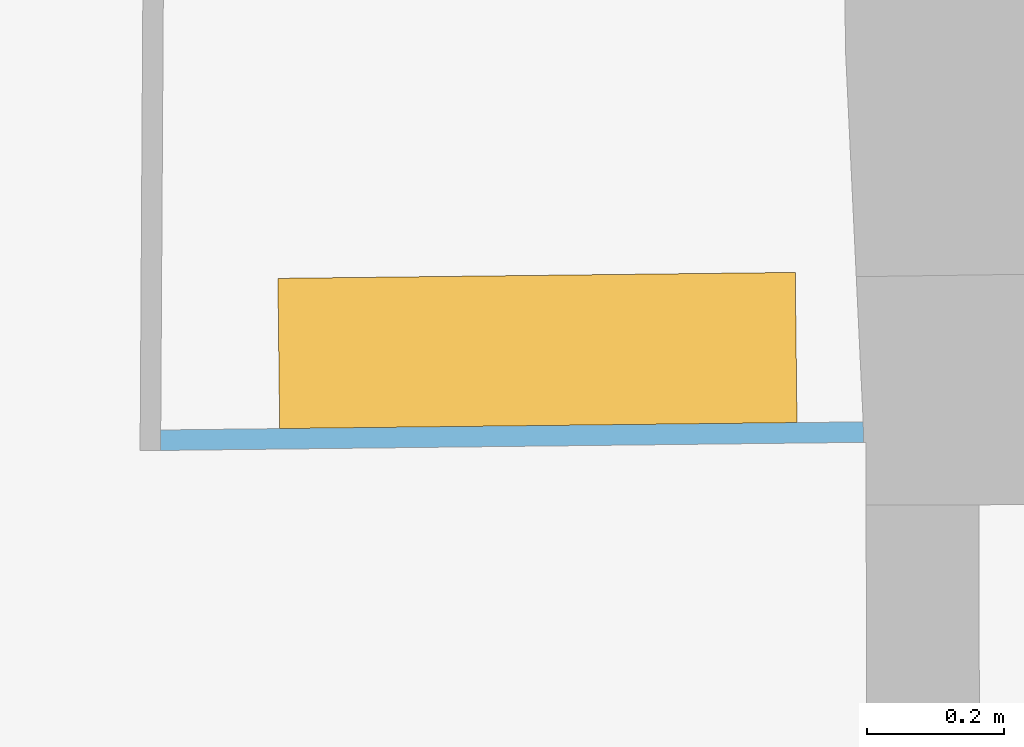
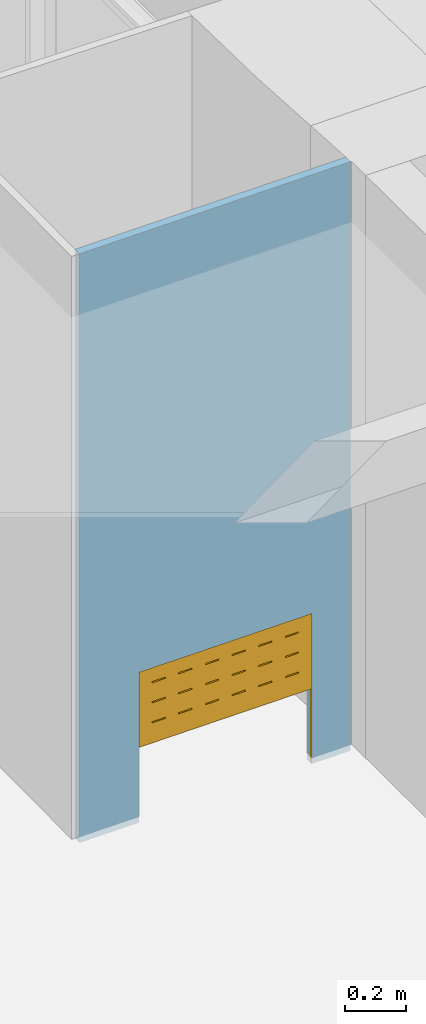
# One storey, part 50 of 72: 1 door, 1 opening, plus 1 element that does not belong to this part.
"""IFC2X3 building model written with IfcOpenShell, lengths in centimetres."""

import ifcopenshell
import ifcopenshell.guid

model = None  # the IFC model being written
_history = None  # IfcOwnerHistory: only IFC2X3 demands one
_inside = {}  # id of a spatial element -> (the spatial element, [elements in it])
_under = {}  # id of a project, library or spatial element -> (it, [spatial elements below it])
_declared = {}  # id of a project -> (the project, [libraries it declares])
_typed = {}  # id of a type object -> (the type object, [elements of that type])
_made_of = {}  # id of a material, layer set ... -> (it, [elements and type objects made of it])


def new_model(schema):
    """Start an empty IFC model of exactly this schema.

    Asked for "IFC4X3", IfcOpenShell would pick the latest addendum, in which some entities
    have other attributes; the version numbers below select the first issue.
    IFC2X3 requires an IfcOwnerHistory on every rooted entity: one is made here for all.
    """
    global model, _history
    if schema == "IFC4X3":
        model = ifcopenshell.file(schema_version=(4, 3, 0, 0))
    else:
        model = ifcopenshell.file(schema=schema)
    _inside.clear()
    _under.clear()
    _declared.clear()
    _typed.clear()
    _made_of.clear()
    _history = None
    if model.schema == "IFC2X3":
        org = make("IfcOrganization", Name="unknown")
        user = make(
            "IfcPersonAndOrganization",
            ThePerson=make("IfcPerson", FamilyName="unknown"),
            TheOrganization=org,
        )
        app = make(
            "IfcApplication",
            ApplicationDeveloper=org,
            Version="unknown",
            ApplicationFullName="unknown",
            ApplicationIdentifier="unknown",
        )
        _history = make(
            "IfcOwnerHistory",
            OwningUser=user,
            OwningApplication=app,
            ChangeAction="ADDED",
            CreationDate=0,
        )
    return model


def make(cls, **values):
    """One entity of the class cls with the attributes given. An attribute that is None is left unset."""
    return model.create_entity(
        cls, **{name: value for name, value in values.items() if value is not None}
    )


def entity(cls, *values):
    """Any entity or typed value of the class cls, its attributes in the order of the schema. None: left unset."""
    e = model.create_entity(cls)
    for i, value in enumerate(values):
        if value is not None:
            e[i] = value
    return e


def rooted(cls, **values):
    """An entity with a GlobalId (a new one), such as an element, a storey or a relation."""
    return make(cls, GlobalId=ifcopenshell.guid.new(), OwnerHistory=_history, **values)


def si_unit(unit_type, name, prefix=None):
    """IfcSIUnit, for example si_unit("LENGTHUNIT", "METRE", prefix="MILLI")."""
    return make("IfcSIUnit", UnitType=unit_type, Prefix=prefix, Name=name)


def converted_unit(unit_type, name, factor, base, dimensions=None, offset=None):
    """IfcConversionBasedUnit, such as the inch: factor (a typed value) times the base unit."""
    return make(
        "IfcConversionBasedUnit"
        if offset is None
        else "IfcConversionBasedUnitWithOffset",
        ConversionOffset=offset,
        Dimensions=None
        if dimensions is None
        else entity("IfcDimensionalExponents", *dimensions),
        UnitType=unit_type,
        Name=name,
        ConversionFactor=make(
            "IfcMeasureWithUnit", ValueComponent=factor, UnitComponent=base
        ),
    )


def assignment(units):
    """IfcUnitAssignment: the units of a project."""
    return None if units is None else make("IfcUnitAssignment", Units=units)


def point(xyz):
    """IfcCartesianPoint."""
    return None if xyz is None else make("IfcCartesianPoint", Coordinates=xyz)


def direction(xyz):
    """IfcDirection."""
    return None if xyz is None else make("IfcDirection", DirectionRatios=xyz)


def frame(location, z_axis=None, x_axis=None):
    """IfcAxis2Placement3D, a coordinate frame: its origin and axes. An axis left out is left unset."""
    return make(
        "IfcAxis2Placement3D",
        Location=point(location),
        Axis=direction(z_axis),
        RefDirection=direction(x_axis),
    )


def origin():
    """The frame at (0, 0, 0) with its axes left unset."""
    return frame((0.0, 0.0, 0.0))


def origin_with_axes():
    """The frame at (0, 0, 0) with the z axis (0, 0, 1) and the x axis (1, 0, 0) written out."""
    return frame((0.0, 0.0, 0.0), z_axis=(0.0, 0.0, 1.0), x_axis=(1.0, 0.0, 0.0))


def place(relative_to, where):
    """IfcLocalPlacement: puts the frame where relative to a parent placement (None: the world)."""
    return make(
        "IfcLocalPlacement", PlacementRelTo=relative_to, RelativePlacement=where
    )


def context(
    kind, dimensions, precision=None, world=None, true_north=None, identifier=None
):
    """IfcGeometricRepresentationContext, for example the 3D "Model" context."""
    return make(
        "IfcGeometricRepresentationContext",
        ContextIdentifier=identifier,
        ContextType=kind,
        CoordinateSpaceDimension=dimensions,
        Precision=precision,
        WorldCoordinateSystem=world,
        TrueNorth=true_north,
    )


def subcontext(parent, identifier, kind, view, scale=None):
    """IfcGeometricRepresentationSubContext, for example "Body" below "Model"."""
    return make(
        "IfcGeometricRepresentationSubContext",
        ContextIdentifier=identifier,
        ContextType=kind,
        ParentContext=parent,
        TargetScale=scale,
        TargetView=view,
    )


def project(units=None, contexts=None):
    """IfcProject with its units and contexts."""
    return rooted(
        "IfcProject",
        Name="project",
        RepresentationContexts=contexts,
        UnitsInContext=assignment(units),
    )


def spatial(cls, under=None, at=None, **own):
    """A site, building, storey or space (cls), placed at a placement, below another one or the project."""
    s = rooted(cls, ObjectPlacement=at, **own)
    if under is not None:
        _under.setdefault(under.id(), (under, []))[1].append(s)
    return s


def polyline(points):
    """IfcPolyline through the points."""
    return make("IfcPolyline", Points=[point(p) for p in points])


def outline(outer, holes=None, kind="AREA"):
    """IfcArbitraryClosedProfileDef: a profile drawn as a closed curve; with holes, ...WithVoids."""
    if holes is None:
        return make("IfcArbitraryClosedProfileDef", ProfileType=kind, OuterCurve=outer)
    return make(
        "IfcArbitraryProfileDefWithVoids",
        ProfileType=kind,
        OuterCurve=outer,
        InnerCurves=holes,
    )


def extrude(swept, where, along, depth):
    """IfcExtrudedAreaSolid: the profile swept, set in the frame where, extruded along a direction by depth."""
    return make(
        "IfcExtrudedAreaSolid",
        SweptArea=swept,
        Position=where,
        ExtrudedDirection=direction(along),
        Depth=depth,
    )


def faces_of(points, faces, orient=None, outer=None):
    """IfcFace entities. A face is a list of loops; a loop is a list of indices into points, from 0.

    orient and outer hold one flag for each loop. By default every Orientation is true, the
    first loop of a face is its IfcFaceOuterBound and the others are IfcFaceBound.
    """
    made = []
    for i, loops in enumerate(faces):
        bounds = []
        for j, loop in enumerate(loops):
            is_outer = j == 0 if outer is None else outer[i][j]
            bounds.append(
                make(
                    "IfcFaceOuterBound" if is_outer else "IfcFaceBound",
                    Bound=make("IfcPolyLoop", Polygon=[points[k] for k in loop]),
                    Orientation=True if orient is None else orient[i][j],
                )
            )
        made.append(make("IfcFace", Bounds=bounds))
    return made


def faceted_brep(points, faces, orient=None, outer=None, voids=None):
    """IfcFacetedBrep: a solid bounded by flat faces; with voids (closed shells), ...WithVoids."""
    shared = [point(p) for p in points]
    hull = make("IfcClosedShell", CfsFaces=faces_of(shared, faces, orient, outer))
    if voids is None:
        return make("IfcFacetedBrep", Outer=hull)
    return make(
        "IfcFacetedBrepWithVoids",
        Outer=hull,
        Voids=[
            make(cls, CfsFaces=faces_of(shared, fs, o, b)) for cls, fs, o, b in voids
        ],
    )


def shape(context_of_items, identifier, shape_type, items):
    """IfcShapeRepresentation: the items that make up one representation, for example the "Body"."""
    return make(
        "IfcShapeRepresentation",
        ContextOfItems=context_of_items,
        RepresentationIdentifier=identifier,
        RepresentationType=shape_type,
        Items=items,
    )


def source(mapping_origin, context_of_items, identifier, shape_type, items):
    """IfcRepresentationMap: a shape defined once, which mapped items show again and again."""
    return make(
        "IfcRepresentationMap",
        MappingOrigin=mapping_origin,
        MappedRepresentation=shape(context_of_items, identifier, shape_type, items),
    )


def transform(
    local_origin,
    x_axis=None,
    y_axis=None,
    z_axis=None,
    scale=None,
    scale2=None,
    scale3=None,
    uniform=True,
):
    """IfcCartesianTransformationOperator3D, or its non-uniform kind. x_axis, y_axis, z_axis: its Axis1, 2, 3."""
    if uniform:
        return make(
            "IfcCartesianTransformationOperator3D",
            Axis1=direction(x_axis),
            Axis2=direction(y_axis),
            LocalOrigin=point(local_origin),
            Scale=scale,
            Axis3=direction(z_axis),
        )
    return make(
        "IfcCartesianTransformationOperator3DnonUniform",
        Axis1=direction(x_axis),
        Axis2=direction(y_axis),
        LocalOrigin=point(local_origin),
        Scale=scale,
        Axis3=direction(z_axis),
        Scale2=scale2,
        Scale3=scale3,
    )


def mapped(mapping_source, mapping_target):
    """IfcMappedItem: shows the shape of a source again, moved by a transform."""
    return make(
        "IfcMappedItem", MappingSource=mapping_source, MappingTarget=mapping_target
    )


def material(Name=None, Category=None):
    """IfcMaterial."""
    return make("IfcMaterial", Name=Name, Category=Category)


def layer(
    of_material, thickness, ventilated=None, Name=None, Category=None, Priority=None
):
    """IfcMaterialLayer: one layer of a wall or slab, of a material (None: an air gap)."""
    return make(
        "IfcMaterialLayer",
        Material=of_material,
        LayerThickness=thickness,
        IsVentilated=ventilated,
        Name=Name,
        Category=Category,
        Priority=Priority,
    )


def layer_set(layers, Name=None):
    """IfcMaterialLayerSet."""
    return make("IfcMaterialLayerSet", MaterialLayers=layers, LayerSetName=Name)


def layer_usage(for_layer_set, set_direction, sense, offset, extent=None):
    """IfcMaterialLayerSetUsage: how a layer set lies in its element."""
    return make(
        "IfcMaterialLayerSetUsage",
        ForLayerSet=for_layer_set,
        LayerSetDirection=set_direction,
        DirectionSense=sense,
        OffsetFromReferenceLine=offset,
        ReferenceExtent=extent,
    )


def made_of(thing, what):
    """Note that an element or type object is made of a material, layer set ...; save() writes the relation."""
    if what is not None:
        _made_of.setdefault(what.id(), (what, []))[1].append(thing)
    return thing


def type_object(cls, material=None, **own):
    """A type object (cls), such as IfcWallType, which elements share."""
    return made_of(rooted(cls, **own), material)


def element(
    cls,
    number,
    at=None,
    inside=None,
    cuts=None,
    type_object=None,
    material=None,
    context=None,
    identifier="Body",
    shape_type=None,
    held_by="IfcProductDefinitionShape",
    body=None,
    shapes=None,
    **own,
):
    """One element of the class cls, such as IfcWall. Its Tag is "e" and its number.

    at: its placement. inside: the storey or other place that contains it. cuts: it is an
    opening in that element (IfcRelVoidsElement). A single representation is given by context,
    identifier, shape_type and body (its items); several are given by shapes. held_by: the class
    of the entity that holds the representations. save() writes the other relations.
    """
    e = rooted(cls, Tag="e%d" % number, ObjectPlacement=at, **own)
    if body is not None:
        shapes = [shape(context, identifier, shape_type, body)]
    if shapes is not None:
        e.Representation = make(held_by, Representations=shapes)
    if inside is not None:
        _inside.setdefault(inside.id(), (inside, []))[1].append(e)
    if cuts is not None:
        rooted(
            "IfcRelVoidsElement", RelatingBuildingElement=cuts, RelatedOpeningElement=e
        )
    if type_object is not None:
        _typed.setdefault(type_object.id(), (type_object, []))[1].append(e)
    return made_of(e, material)


def fill(opening, filler):
    """IfcRelFillsElement: the door or window that sits in an opening."""
    return rooted(
        "IfcRelFillsElement",
        RelatingOpeningElement=opening,
        RelatedBuildingElement=filler,
    )


def aggregate(whole, parts):
    """IfcRelAggregates: a whole, such as a stair, and the parts it consists of."""
    return rooted("IfcRelAggregates", RelatingObject=whole, RelatedObjects=parts)


def save(model, path):
    """Write the relations noted so far, then the file.

    IfcRelAggregates (storeys below a building ...), IfcRelContainedInSpatialStructure (elements
    in a storey), IfcRelDefinesByType, IfcRelAssociatesMaterial and IfcRelDeclares: one each for
    every whole, place, type object, material and project.
    """
    for whole, parts in _under.values():
        aggregate(whole, parts)
    for where, things in _inside.values():
        rooted(
            "IfcRelContainedInSpatialStructure",
            RelatedElements=things,
            RelatingStructure=where,
        )
    for kind, things in _typed.values():
        rooted("IfcRelDefinesByType", RelatedObjects=things, RelatingType=kind)
    for what, things in _made_of.values():
        rooted("IfcRelAssociatesMaterial", RelatedObjects=things, RelatingMaterial=what)
    for by, libraries in _declared.values():
        rooted("IfcRelDeclares", RelatingContext=by, RelatedDefinitions=libraries)
    model.write(path)


model = new_model("IFC2X3")

# Units and contexts
model_context = context("Model", 3, precision=0.0001, world=origin(), true_north=direction((0.225632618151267, 0.974212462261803, 0.0)))
body_context = subcontext(model_context, "Body", "Model", "MODEL_VIEW")
footprint_context = subcontext(model_context, "FootPrint", "Model", "MODEL_VIEW")
profile_context = subcontext(model_context, "Profile", "Model", "MODEL_VIEW")
ifc_project = project(units=[si_unit("LENGTHUNIT", "METRE", prefix="CENTI"), si_unit("AREAUNIT", "SQUARE_METRE", prefix="CENTI"), si_unit("VOLUMEUNIT", "CUBIC_METRE", prefix="CENTI"), converted_unit("PLANEANGLEUNIT", "DEGREE", entity("IfcRatioMeasure", 0.0174532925), si_unit("PLANEANGLEUNIT", "RADIAN"), dimensions=[0, 0, 0, 0, 0, 0, 0])], contexts=[model_context])

# Site, building, storey
site_placement = place(None, origin_with_axes())
site = spatial("IfcSite", under=ifc_project, at=site_placement, Name="Default Site", CompositionType="ELEMENT")
building_placement = place(site_placement, origin_with_axes())
building = spatial("IfcBuilding", under=site, at=building_placement, Name="Default Building", CompositionType="ELEMENT")
storey_placement = place(building_placement, frame((0.0, 0.0, 853.910374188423), z_axis=(0.0, 0.0, 1.0), x_axis=(1.0, 0.0, 0.0)))
storey = spatial("IfcBuildingStorey", under=building, at=storey_placement, Name="Niveau 2", CompositionType="ELEMENT", Elevation=853.910374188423)

# Wall, opening, door
ifc_material_1 = material(Name="<aucun>")
ifc_layer = layer(ifc_material_1, 3.0)
ifc_layer_set = layer_set([ifc_layer], Name="default")
ifc_layer_usage = layer_usage(ifc_layer_set, "AXIS2", "POSITIVE", -1.5)
wall_type = type_object("IfcWallType", Name="default 30", PredefinedType="NOTDEFINED", material=ifc_layer_set)
wall_placement = place(storey_placement, frame((134.23025830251, -106.678869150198, 1.06581410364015e-12), z_axis=(0.0, 0.0, 1.0), x_axis=(0.999933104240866, 0.0115666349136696, 0.0)))
wall = element("IfcWallStandardCase", 1, at=wall_placement, inside=storey, type_object=wall_type, material=ifc_layer_usage, Name="Enveloppe 198864", context=body_context, shape_type="SweptSolid", body=[
    extrude(outline(polyline([(-4.44089209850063e-14, -1.50000000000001), (102.934505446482, -1.50000000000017), (102.934505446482, 1.49999999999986), (0.052883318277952, 1.49999999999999), (-4.44089209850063e-14, -1.50000000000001)])), frame((0.0, 0.0, -3.5527136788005e-13), z_axis=(0.0, 0.0, 1.0), x_axis=(1.0, 0.0, 0.0)), (0.0, 0.0, 1.0), 234.999999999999),
])
opening_placement = place(wall_placement, frame((22.4727291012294, -2.8421709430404e-14, -3.5527136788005e-13), z_axis=(0.0, 0.0, 1.0), x_axis=(1.0, -1.22471477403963e-15, 0.0)))
cartesian_point_1 = entity("IfcCartesianPoint", [0.0, 0.0, 60.0])
cartesian_point_2 = entity("IfcCartesianPoint", [65.7662885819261, 1.49999999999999])
opening = element("IfcOpeningElement", 2, at=opening_placement, cuts=wall, Name="4294966386_11", ObjectType="Opening", shapes=[
    shape(body_context, "Body", "SweptSolid", [extrude(outline(polyline([(0.0, 60.0), (0.0, 0.0), (65.7662885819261, 0.0), (65.7662885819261, 60.0), (0.0, 60.0)])), frame((0.0, 11.5, 0.0), z_axis=(0.0, -1.0, 0.0), x_axis=(1.0, 0.0, 0.0)), (0.0, 0.0, 1.0), 23.0)]),
    shape(profile_context, "Profile", "GeometricCurveSet", [entity("IfcGeometricCurveSet", [entity("IfcPolyline", [cartesian_point_1, entity("IfcCartesianPoint", [0.0, 0.0, 0.0]), entity("IfcCartesianPoint", [65.7662885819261, 0.0, 0.0]), entity("IfcCartesianPoint", [65.7662885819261, 0.0, 60.0]), cartesian_point_1])])]),
    shape(footprint_context, "FootPrint", "GeometricCurveSet", [entity("IfcGeometricCurveSet", [entity("IfcPolyline", [cartesian_point_2, entity("IfcCartesianPoint", [0.0, 1.50000000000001]), entity("IfcCartesianPoint", [2.22044604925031e-14, -1.50000000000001]), entity("IfcCartesianPoint", [65.7662885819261, -1.50000000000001]), cartesian_point_2])])]),
])
ifc_material_2 = material(Name="Noyer 01")
door_style = type_object("IfcDoorStyle", Name="Volet roulant [R]", ConstructionType="NOTDEFINED", OperationType="NOTDEFINED", ParameterTakesPrecedence=False, Sizeable=False, material=ifc_material_2)
shared_shape = source(origin_with_axes(), body_context, "Body", "Brep", [
    faceted_brep([(-37.8831446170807, 59.799998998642, 25.0), (-37.8831446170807, 84.799998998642, 25.0), (-37.8831446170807, 84.799998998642, 0.0), (-37.8831446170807, 59.799998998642, 0.0), (37.8831446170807, 59.799998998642, 0.0), (37.8831446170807, 84.799998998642, 0.0), (37.8831446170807, 84.799998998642, 25.0), (37.8831446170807, 59.799998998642, 25.0)], [[[0, 1, 2, 3]], [[4, 5, 6, 7]], [[3, 2, 5, 4]], [[2, 1, 6, 5]], [[1, 0, 7, 6]], [[0, 3, 4, 7]]]),
    faceted_brep([(-32.7831447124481, 4.44089209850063e-14, 0.0), (-32.7831447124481, 4.44089209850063e-14, 0.999999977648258), (-32.7831447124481, 60.0000023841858, 0.999999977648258), (-32.7831447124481, 60.0000023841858, 0.0), (32.7831447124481, 4.44089209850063e-14, 0.0), (32.7831447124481, 4.44089209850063e-14, 0.999999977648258), (32.7831447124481, 60.0000023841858, 0.999999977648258), (32.7831447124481, 60.0000023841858, 0.0)], [[[0, 1, 2, 3]], [[1, 0, 3, 2]], [[4, 5, 6, 7]], [[5, 4, 7, 6]]]),
    faceted_brep([(-32.8831434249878, 37.9999995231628, 0.0), (32.8831434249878, 37.9999995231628, 0.0), (32.8831434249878, 30.0000011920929, 0.0), (-32.8831434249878, 30.0000011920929, 0.0), (-32.8831434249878, 30.0000011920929, 0.999999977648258), (32.8831434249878, 30.0000011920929, 0.999999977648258), (32.8831434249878, 37.9999995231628, 0.999999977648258), (-32.8831434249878, 37.9999995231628, 0.999999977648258)], [[[0, 1, 2, 3]], [[4, 5, 6, 7]], [[3, 2, 5, 4]], [[2, 1, 6, 5]], [[1, 0, 7, 6]], [[0, 3, 4, 7]]]),
    faceted_brep([(27.8241991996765, 37.9999995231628, 0.0), (27.8241991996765, 38.4999990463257, 0.0), (22.7652534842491, 38.4999990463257, 0.0), (22.7652534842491, 37.9999995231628, 0.0), (17.7063077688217, 37.9999995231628, 0.0), (17.7063077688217, 38.4999990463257, 0.0), (12.6473635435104, 38.4999990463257, 0.0), (12.6473635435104, 37.9999995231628, 0.0), (7.58841782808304, 37.9999995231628, 0.0), (7.58841782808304, 38.4999990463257, 0.0), (2.52947267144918, 38.4999990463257, 0.0), (2.52947267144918, 37.9999995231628, 0.0), (-2.52947267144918, 37.9999995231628, 0.0), (-2.52947267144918, 38.4999990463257, 0.0), (-7.58841782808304, 38.4999990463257, 0.0), (-7.58841782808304, 37.9999995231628, 0.0), (-12.6473635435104, 37.9999995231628, 0.0), (-12.6473635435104, 38.4999990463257, 0.0), (-17.7063077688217, 38.4999990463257, 0.0), (-17.7063077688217, 37.9999995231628, 0.0), (-22.7652534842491, 37.9999995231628, 0.0), (-22.7652534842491, 38.4999990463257, 0.0), (-27.8241991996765, 38.4999990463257, 0.0), (-27.8241991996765, 37.9999995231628, 0.0), (-32.8831434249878, 37.9999995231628, 0.0), (-32.8831434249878, 46.000000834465, 0.0), (32.8831434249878, 46.000000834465, 0.0), (32.8831434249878, 37.9999995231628, 0.0), (32.8831434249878, 37.9999995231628, 0.999999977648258), (32.8831434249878, 46.000000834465, 0.999999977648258), (-32.8831434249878, 46.000000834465, 0.999999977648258), (-32.8831434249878, 37.9999995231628, 0.999999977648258), (-27.8241991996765, 37.9999995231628, 0.999999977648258), (-27.8241991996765, 38.4999990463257, 0.999999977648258), (-22.7652534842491, 38.4999990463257, 0.999999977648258), (-22.7652534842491, 37.9999995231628, 0.999999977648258), (-17.7063077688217, 37.9999995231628, 0.999999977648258), (-17.7063077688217, 38.4999990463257, 0.999999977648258), (-12.6473635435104, 38.4999990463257, 0.999999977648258), (-12.6473635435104, 37.9999995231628, 0.999999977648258), (-7.58841782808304, 37.9999995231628, 0.999999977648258), (-7.58841782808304, 38.4999990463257, 0.999999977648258), (-2.52947267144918, 38.4999990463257, 0.999999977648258), (-2.52947267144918, 37.9999995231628, 0.999999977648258), (2.52947267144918, 37.9999995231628, 0.999999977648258), (2.52947267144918, 38.4999990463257, 0.999999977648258), (7.58841782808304, 38.4999990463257, 0.999999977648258), (7.58841782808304, 37.9999995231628, 0.999999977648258), (12.6473635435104, 37.9999995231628, 0.999999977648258), (12.6473635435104, 38.4999990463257, 0.999999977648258), (17.7063077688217, 38.4999990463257, 0.999999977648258), (17.7063077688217, 37.9999995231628, 0.999999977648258), (22.7652534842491, 37.9999995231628, 0.999999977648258), (22.7652534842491, 38.4999990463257, 0.999999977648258), (27.8241991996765, 38.4999990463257, 0.999999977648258), (27.8241991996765, 37.9999995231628, 0.999999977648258)], [[[0, 1, 2, 3, 4, 5, 6, 7, 8, 9, 10, 11, 12, 13, 14, 15, 16, 17, 18, 19, 20, 21, 22, 23, 24, 25, 26, 27]], [[28, 29, 30, 31, 32, 33, 34, 35, 36, 37, 38, 39, 40, 41, 42, 43, 44, 45, 46, 47, 48, 49, 50, 51, 52, 53, 54, 55]], [[27, 26, 29, 28]], [[26, 25, 30, 29]], [[25, 24, 31, 30]], [[24, 23, 32, 31]], [[23, 22, 33, 32]], [[22, 21, 34, 33]], [[21, 20, 35, 34]], [[20, 19, 36, 35]], [[19, 18, 37, 36]], [[18, 17, 38, 37]], [[17, 16, 39, 38]], [[16, 15, 40, 39]], [[15, 14, 41, 40]], [[14, 13, 42, 41]], [[13, 12, 43, 42]], [[12, 11, 44, 43]], [[11, 10, 45, 44]], [[10, 9, 46, 45]], [[9, 8, 47, 46]], [[8, 7, 48, 47]], [[7, 6, 49, 48]], [[6, 5, 50, 49]], [[5, 4, 51, 50]], [[4, 3, 52, 51]], [[3, 2, 53, 52]], [[2, 1, 54, 53]], [[1, 0, 55, 54]], [[0, 27, 28, 55]]]),
    faceted_brep([(27.8241991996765, 46.000000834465, 0.0), (27.8241991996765, 46.5000003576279, 0.0), (22.7652534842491, 46.5000003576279, 0.0), (22.7652534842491, 46.000000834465, 0.0), (17.7063077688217, 46.000000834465, 0.0), (17.7063077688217, 46.5000003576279, 0.0), (12.6473635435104, 46.5000003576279, 0.0), (12.6473635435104, 46.000000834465, 0.0), (7.58841782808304, 46.000000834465, 0.0), (7.58841782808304, 46.5000003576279, 0.0), (2.52947267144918, 46.5000003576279, 0.0), (2.52947267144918, 46.000000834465, 0.0), (-2.52947267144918, 46.000000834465, 0.0), (-2.52947267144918, 46.5000003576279, 0.0), (-7.58841782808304, 46.5000003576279, 0.0), (-7.58841782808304, 46.000000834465, 0.0), (-12.6473635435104, 46.000000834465, 0.0), (-12.6473635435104, 46.5000003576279, 0.0), (-17.7063077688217, 46.5000003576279, 0.0), (-17.7063077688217, 46.000000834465, 0.0), (-22.7652534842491, 46.000000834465, 0.0), (-22.7652534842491, 46.5000003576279, 0.0), (-27.8241991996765, 46.5000003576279, 0.0), (-27.8241991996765, 46.000000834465, 0.0), (-32.8831434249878, 46.000000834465, 0.0), (-32.8831434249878, 54.0000021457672, 0.0), (32.8831434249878, 54.0000021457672, 0.0), (32.8831434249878, 46.000000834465, 0.0), (32.8831434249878, 46.000000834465, 0.999999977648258), (32.8831434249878, 54.0000021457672, 0.999999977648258), (-32.8831434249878, 54.0000021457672, 0.999999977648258), (-32.8831434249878, 46.000000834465, 0.999999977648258), (-27.8241991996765, 46.000000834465, 0.999999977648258), (-27.8241991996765, 46.5000003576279, 0.999999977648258), (-22.7652534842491, 46.5000003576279, 0.999999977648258), (-22.7652534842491, 46.000000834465, 0.999999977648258), (-17.7063077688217, 46.000000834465, 0.999999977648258), (-17.7063077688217, 46.5000003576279, 0.999999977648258), (-12.6473635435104, 46.5000003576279, 0.999999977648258), (-12.6473635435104, 46.000000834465, 0.999999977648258), (-7.58841782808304, 46.000000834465, 0.999999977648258), (-7.58841782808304, 46.5000003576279, 0.999999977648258), (-2.52947267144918, 46.5000003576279, 0.999999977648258), (-2.52947267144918, 46.000000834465, 0.999999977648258), (2.52947267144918, 46.000000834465, 0.999999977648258), (2.52947267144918, 46.5000003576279, 0.999999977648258), (7.58841782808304, 46.5000003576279, 0.999999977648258), (7.58841782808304, 46.000000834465, 0.999999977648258), (12.6473635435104, 46.000000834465, 0.999999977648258), (12.6473635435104, 46.5000003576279, 0.999999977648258), (17.7063077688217, 46.5000003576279, 0.999999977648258), (17.7063077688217, 46.000000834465, 0.999999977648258), (22.7652534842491, 46.000000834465, 0.999999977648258), (22.7652534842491, 46.5000003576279, 0.999999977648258), (27.8241991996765, 46.5000003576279, 0.999999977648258), (27.8241991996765, 46.000000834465, 0.999999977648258)], [[[0, 1, 2, 3, 4, 5, 6, 7, 8, 9, 10, 11, 12, 13, 14, 15, 16, 17, 18, 19, 20, 21, 22, 23, 24, 25, 26, 27]], [[28, 29, 30, 31, 32, 33, 34, 35, 36, 37, 38, 39, 40, 41, 42, 43, 44, 45, 46, 47, 48, 49, 50, 51, 52, 53, 54, 55]], [[27, 26, 29, 28]], [[26, 25, 30, 29]], [[25, 24, 31, 30]], [[24, 23, 32, 31]], [[23, 22, 33, 32]], [[22, 21, 34, 33]], [[21, 20, 35, 34]], [[20, 19, 36, 35]], [[19, 18, 37, 36]], [[18, 17, 38, 37]], [[17, 16, 39, 38]], [[16, 15, 40, 39]], [[15, 14, 41, 40]], [[14, 13, 42, 41]], [[13, 12, 43, 42]], [[12, 11, 44, 43]], [[11, 10, 45, 44]], [[10, 9, 46, 45]], [[9, 8, 47, 46]], [[8, 7, 48, 47]], [[7, 6, 49, 48]], [[6, 5, 50, 49]], [[5, 4, 51, 50]], [[4, 3, 52, 51]], [[3, 2, 53, 52]], [[2, 1, 54, 53]], [[1, 0, 55, 54]], [[0, 27, 28, 55]]]),
    faceted_brep([(27.8241991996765, 54.0000021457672, 0.0), (27.8241991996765, 54.5000016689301, 0.0), (22.7652534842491, 54.5000016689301, 0.0), (22.7652534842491, 54.0000021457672, 0.0), (17.7063077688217, 54.0000021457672, 0.0), (17.7063077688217, 54.5000016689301, 0.0), (12.6473635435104, 54.5000016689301, 0.0), (12.6473635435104, 54.0000021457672, 0.0), (7.58841782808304, 54.0000021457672, 0.0), (7.58841782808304, 54.5000016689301, 0.0), (2.52947267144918, 54.5000016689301, 0.0), (2.52947267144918, 54.0000021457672, 0.0), (-2.52947267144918, 54.0000021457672, 0.0), (-2.52947267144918, 54.5000016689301, 0.0), (-7.58841782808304, 54.5000016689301, 0.0), (-7.58841782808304, 54.0000021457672, 0.0), (-12.6473635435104, 54.0000021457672, 0.0), (-12.6473635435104, 54.5000016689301, 0.0), (-17.7063077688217, 54.5000016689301, 0.0), (-17.7063077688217, 54.0000021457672, 0.0), (-22.7652534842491, 54.0000021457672, 0.0), (-22.7652534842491, 54.5000016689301, 0.0), (-27.8241991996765, 54.5000016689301, 0.0), (-27.8241991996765, 54.0000021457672, 0.0), (-32.8831434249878, 54.0000021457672, 0.0), (-32.8831434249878, 60.0000023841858, 0.0), (32.8831434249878, 60.0000023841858, 0.0), (32.8831434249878, 54.0000021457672, 0.0), (32.8831434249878, 54.0000021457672, 0.999999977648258), (32.8831434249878, 60.0000023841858, 0.999999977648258), (-32.8831434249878, 60.0000023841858, 0.999999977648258), (-32.8831434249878, 54.0000021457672, 0.999999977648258), (-27.8241991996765, 54.0000021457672, 0.999999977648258), (-27.8241991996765, 54.5000016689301, 0.999999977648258), (-22.7652534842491, 54.5000016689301, 0.999999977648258), (-22.7652534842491, 54.0000021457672, 0.999999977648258), (-17.7063077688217, 54.0000021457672, 0.999999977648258), (-17.7063077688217, 54.5000016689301, 0.999999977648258), (-12.6473635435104, 54.5000016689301, 0.999999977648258), (-12.6473635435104, 54.0000021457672, 0.999999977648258), (-7.58841782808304, 54.0000021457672, 0.999999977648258), (-7.58841782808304, 54.5000016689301, 0.999999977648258), (-2.52947267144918, 54.5000016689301, 0.999999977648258), (-2.52947267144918, 54.0000021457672, 0.999999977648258), (2.52947267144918, 54.0000021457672, 0.999999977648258), (2.52947267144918, 54.5000016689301, 0.999999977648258), (7.58841782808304, 54.5000016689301, 0.999999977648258), (7.58841782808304, 54.0000021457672, 0.999999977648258), (12.6473635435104, 54.0000021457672, 0.999999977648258), (12.6473635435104, 54.5000016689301, 0.999999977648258), (17.7063077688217, 54.5000016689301, 0.999999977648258), (17.7063077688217, 54.0000021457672, 0.999999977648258), (22.7652534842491, 54.0000021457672, 0.999999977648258), (22.7652534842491, 54.5000016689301, 0.999999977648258), (27.8241991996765, 54.5000016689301, 0.999999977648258), (27.8241991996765, 54.0000021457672, 0.999999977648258)], [[[0, 1, 2, 3, 4, 5, 6, 7, 8, 9, 10, 11, 12, 13, 14, 15, 16, 17, 18, 19, 20, 21, 22, 23, 24, 25, 26, 27]], [[28, 29, 30, 31, 32, 33, 34, 35, 36, 37, 38, 39, 40, 41, 42, 43, 44, 45, 46, 47, 48, 49, 50, 51, 52, 53, 54, 55]], [[27, 26, 29, 28]], [[26, 25, 30, 29]], [[25, 24, 31, 30]], [[24, 23, 32, 31]], [[23, 22, 33, 32]], [[22, 21, 34, 33]], [[21, 20, 35, 34]], [[20, 19, 36, 35]], [[19, 18, 37, 36]], [[18, 17, 38, 37]], [[17, 16, 39, 38]], [[16, 15, 40, 39]], [[15, 14, 41, 40]], [[14, 13, 42, 41]], [[13, 12, 43, 42]], [[12, 11, 44, 43]], [[11, 10, 45, 44]], [[10, 9, 46, 45]], [[9, 8, 47, 46]], [[8, 7, 48, 47]], [[7, 6, 49, 48]], [[6, 5, 50, 49]], [[5, 4, 51, 50]], [[4, 3, 52, 51]], [[3, 2, 53, 52]], [[2, 1, 54, 53]], [[1, 0, 55, 54]], [[0, 27, 28, 55]]]),
])
door_placement = place(opening_placement, frame((32.883144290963, -1.50000000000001, 0.0), z_axis=(0.0, 0.0, 1.0), x_axis=(1.0, 0.0, 0.0)))
door = element("IfcDoor", 3, at=door_placement, inside=storey, type_object=door_style, material=ifc_material_2, Name="Porte 199143", OverallHeight=60.0, OverallWidth=65.7662885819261, context=body_context, shape_type="MappedRepresentation", body=[
    mapped(shared_shape, transform((0.0, 0.0, 0.0), x_axis=(-1.0, 0.0, 0.0), y_axis=(0.0, 0.0, 1.0), z_axis=(0.0, 1.0, 0.0), scale=1.0, scale2=1.0, scale3=1.0, uniform=False)),
])
fill(opening, door)

save(model, "model.ifc")
